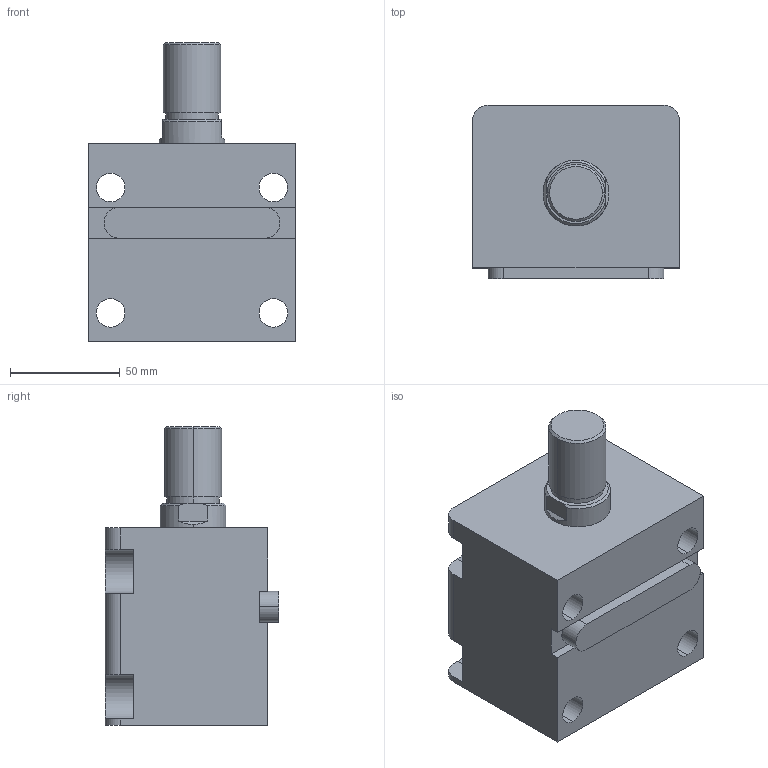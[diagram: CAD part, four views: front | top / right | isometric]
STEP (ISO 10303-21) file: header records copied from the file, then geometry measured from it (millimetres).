
FILE_DESCRIPTION (( 'STEP AP203' ), '1' );
FILE_NAME ('HTB-LA50-30W.STEP', '2019-10-09T07:08:30', ( '微软用户' ), ( '微软中国' ), 'SwSTEP 2.0', 'SolidWorks 2012', '' );
FILE_SCHEMA (( 'CONFIG_CONTROL_DESIGN' ));
Length unit declared in the file: millimetre
Products named in the file (4): HTB-LA50-30掛极; HTB-LA50-30W活塞杆; HTB-LA50-瑩; HTB-LA50-30W
Assembly tree (3 placements, depth 2):
  HTB-LA50-30W
    HTB-LA50-30掛极
    HTB-LA50-30W活塞杆
    HTB-LA50-瑩
Bounding box: 94 x 79 x 136 mm (x, y, z)
Volume: 563965.2 mm3; surface area: 89274.3 mm2
Topology: 3 solids, 3 shells, 90 faces, 219 edges, 144 vertices
Faces by surface type: plane 41, cylinder 37, cone 8, torus 4
Entity records: 3107 total; most frequent: DIRECTION 497, CARTESIAN_POINT 487, ORIENTED_EDGE 438, EDGE_CURVE 219, AXIS2_PLACEMENT_3D 190, VERTEX_POINT 144, LINE 117, VECTOR 117
